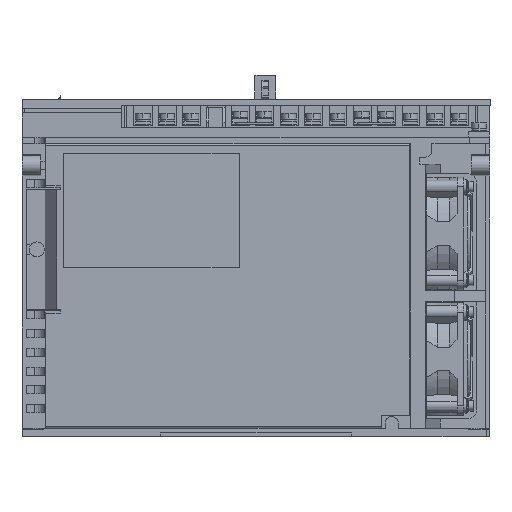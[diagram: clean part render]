
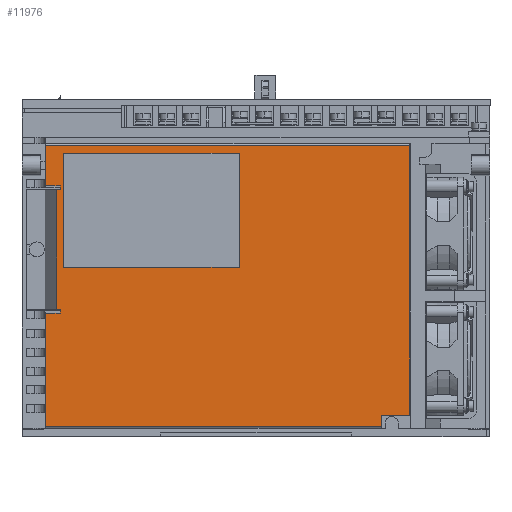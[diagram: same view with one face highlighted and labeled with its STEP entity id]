
A CAD part, left-side view. The second image highlights one B-rep face of the part: STEP entity #11976.
In plain terms, the highlighted planar face has unit normal (-1, 0, 0).
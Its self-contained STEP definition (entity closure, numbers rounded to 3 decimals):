
#11973 = VERTEX_POINT ( 'NONE', #36844 ) ;
#11976 = ADVANCED_FACE ( 'NONE', ( #36897, #36896 ), #36895, .F. ) ;
#11978 = EDGE_LOOP ( 'NONE', ( #11980, #11986, #11991, #11998, #12037, #12043, #12049, #12055, #12060, #12108, #12118, #12022, #12028, #12034 ) ) ;
#11980 = ORIENTED_EDGE ( 'NONE', *, *, #11981, .T. ) ;
#11981 = EDGE_CURVE ( 'NONE', #11983, #11984, #36886, .T. ) ;
#11983 = VERTEX_POINT ( 'NONE', #36882 ) ;
#11984 = VERTEX_POINT ( 'NONE', #36881 ) ;
#11986 = ORIENTED_EDGE ( 'NONE', *, *, #11988, .F. ) ;
#11988 = EDGE_CURVE ( 'NONE', #11989, #11984, #36876, .T. ) ;
#11989 = VERTEX_POINT ( 'NONE', #36871 ) ;
#11991 = ORIENTED_EDGE ( 'NONE', *, *, #11993, .F. ) ;
#11993 = EDGE_CURVE ( 'NONE', #11995, #11989, #36872, .T. ) ;
#11995 = VERTEX_POINT ( 'NONE', #36923 ) ;
#11998 = ORIENTED_EDGE ( 'NONE', *, *, #12000, .F. ) ;
#12000 = EDGE_CURVE ( 'NONE', #12002, #11995, #36918, .T. ) ;
#12002 = VERTEX_POINT ( 'NONE', #36913 ) ;
#12018 = EDGE_CURVE ( 'NONE', #12019, #12114, #36957, .T. ) ;
#12019 = VERTEX_POINT ( 'NONE', #36953 ) ;
#12022 = ORIENTED_EDGE ( 'NONE', *, *, #12024, .F. ) ;
#12024 = EDGE_CURVE ( 'NONE', #12025, #12019, #36947, .T. ) ;
#12025 = VERTEX_POINT ( 'NONE', #36942 ) ;
#12028 = ORIENTED_EDGE ( 'NONE', *, *, #12030, .F. ) ;
#12030 = EDGE_CURVE ( 'NONE', #12031, #12025, #36936, .T. ) ;
#12031 = VERTEX_POINT ( 'NONE', #36997 ) ;
#12034 = ORIENTED_EDGE ( 'NONE', *, *, #12036, .T. ) ;
#12036 = EDGE_CURVE ( 'NONE', #12031, #11983, #36992, .T. ) ;
#12037 = ORIENTED_EDGE ( 'NONE', *, *, #12039, .T. ) ;
#12039 = EDGE_CURVE ( 'NONE', #12002, #12041, #36984, .T. ) ;
#12041 = VERTEX_POINT ( 'NONE', #36979 ) ;
#12043 = ORIENTED_EDGE ( 'NONE', *, *, #12045, .F. ) ;
#12045 = EDGE_CURVE ( 'NONE', #12046, #12041, #36973, .T. ) ;
#12046 = VERTEX_POINT ( 'NONE', #36969 ) ;
#12049 = ORIENTED_EDGE ( 'NONE', *, *, #12051, .F. ) ;
#12051 = EDGE_CURVE ( 'NONE', #12052, #12046, #37032, .T. ) ;
#12052 = VERTEX_POINT ( 'NONE', #37024 ) ;
#12055 = ORIENTED_EDGE ( 'NONE', *, *, #12057, .T. ) ;
#12057 = EDGE_CURVE ( 'NONE', #12052, #12058, #37017, .T. ) ;
#12058 = VERTEX_POINT ( 'NONE', #37013 ) ;
#12060 = ORIENTED_EDGE ( 'NONE', *, *, #12062, .F. ) ;
#12062 = EDGE_CURVE ( 'NONE', #11973, #12058, #37012, .T. ) ;
#12068 = EDGE_LOOP ( 'NONE', ( #12070, #12079, #12086, #12094 ) ) ;
#12070 = ORIENTED_EDGE ( 'NONE', *, *, #12072, .F. ) ;
#12072 = EDGE_CURVE ( 'NONE', #12073, #12076, #37070, .T. ) ;
#12073 = VERTEX_POINT ( 'NONE', #37066 ) ;
#12076 = VERTEX_POINT ( 'NONE', #37060 ) ;
#12079 = ORIENTED_EDGE ( 'NONE', *, *, #12081, .F. ) ;
#12081 = EDGE_CURVE ( 'NONE', #12085, #12073, #37054, .T. ) ;
#12085 = VERTEX_POINT ( 'NONE', #37045 ) ;
#12086 = ORIENTED_EDGE ( 'NONE', *, *, #12089, .F. ) ;
#12089 = EDGE_CURVE ( 'NONE', #12092, #12085, #37038, .T. ) ;
#12092 = VERTEX_POINT ( 'NONE', #37107 ) ;
#12094 = ORIENTED_EDGE ( 'NONE', *, *, #12096, .F. ) ;
#12096 = EDGE_CURVE ( 'NONE', #12076, #12092, #37105, .T. ) ;
#12108 = ORIENTED_EDGE ( 'NONE', *, *, #12110, .F. ) ;
#12110 = EDGE_CURVE ( 'NONE', #12114, #11973, #37137, .T. ) ;
#12114 = VERTEX_POINT ( 'NONE', #37129 ) ;
#12118 = ORIENTED_EDGE ( 'NONE', *, *, #12018, .F. ) ;
#36844 = CARTESIAN_POINT ( 'NONE',  ( -4., -185.95, 11.5 ) ) ;
#36871 = CARTESIAN_POINT ( 'NONE',  ( -4., -12.445, 132. ) ) ;
#36872 = LINE ( 'NONE', #36932, #36931 ) ;
#36873 = DIRECTION ( 'NONE',  ( 0., -1., 0. ) ) ;
#36874 = VECTOR ( 'NONE', #36873, 1000. ) ;
#36875 = CARTESIAN_POINT ( 'NONE',  ( -4., -12.445, 132. ) ) ;
#36876 = LINE ( 'NONE', #36875, #36874 ) ;
#36881 = CARTESIAN_POINT ( 'NONE',  ( -4., -14.45, 132. ) ) ;
#36882 = CARTESIAN_POINT ( 'NONE',  ( -4., -14.45, 134. ) ) ;
#36883 = DIRECTION ( 'NONE',  ( 0., 0., -1. ) ) ;
#36884 = VECTOR ( 'NONE', #36883, 1000. ) ;
#36885 = CARTESIAN_POINT ( 'NONE',  ( -4., -14.45, 5.5 ) ) ;
#36886 = LINE ( 'NONE', #36885, #36884 ) ;
#36891 = DIRECTION ( 'NONE',  ( 0., 0., -1. ) ) ;
#36892 = DIRECTION ( 'NONE',  ( 1., 0., 0. ) ) ;
#36893 = CARTESIAN_POINT ( 'NONE',  ( -4., 158.329, 5.5 ) ) ;
#36894 = AXIS2_PLACEMENT_3D ( 'NONE', #36893, #36892, #36891 ) ;
#36895 = PLANE ( 'NONE',  #36894 ) ;
#36896 = FACE_BOUND ( 'NONE', #12068, .T. ) ;
#36897 = FACE_OUTER_BOUND ( 'NONE', #11978, .T. ) ;
#36913 = CARTESIAN_POINT ( 'NONE',  ( -4., -14.45, 68. ) ) ;
#36915 = DIRECTION ( 'NONE',  ( 0., 1., 0. ) ) ;
#36916 = VECTOR ( 'NONE', #36915, 1000. ) ;
#36917 = CARTESIAN_POINT ( 'NONE',  ( -4., -12.445, 68. ) ) ;
#36918 = LINE ( 'NONE', #36917, #36916 ) ;
#36923 = CARTESIAN_POINT ( 'NONE',  ( -4., -12.445, 68. ) ) ;
#36930 = DIRECTION ( 'NONE',  ( 0., 0., 1. ) ) ;
#36931 = VECTOR ( 'NONE', #36930, 1000. ) ;
#36932 = CARTESIAN_POINT ( 'NONE',  ( -4., -12.445, 28.846 ) ) ;
#36933 = DIRECTION ( 'NONE',  ( 0., 0., 1. ) ) ;
#36934 = VECTOR ( 'NONE', #36933, 1000. ) ;
#36935 = CARTESIAN_POINT ( 'NONE',  ( -4., -6.45, 134. ) ) ;
#36936 = LINE ( 'NONE', #36935, #36934 ) ;
#36942 = CARTESIAN_POINT ( 'NONE',  ( -4., -6.45, 155.5 ) ) ;
#36943 = DIRECTION ( 'NONE',  ( 0., -1., 0. ) ) ;
#36944 = VECTOR ( 'NONE', #36943, 1000. ) ;
#36946 = CARTESIAN_POINT ( 'NONE',  ( -4., 158.329, 155.5 ) ) ;
#36947 = LINE ( 'NONE', #36946, #36944 ) ;
#36953 = CARTESIAN_POINT ( 'NONE',  ( -4., -201.02, 155.5 ) ) ;
#36954 = DIRECTION ( 'NONE',  ( 0., 0., -1. ) ) ;
#36955 = VECTOR ( 'NONE', #36954, 1000. ) ;
#36956 = CARTESIAN_POINT ( 'NONE',  ( -4., -201.02, 155.5 ) ) ;
#36957 = LINE ( 'NONE', #36956, #36955 ) ;
#36969 = CARTESIAN_POINT ( 'NONE',  ( -4., -6.45, 66. ) ) ;
#36970 = DIRECTION ( 'NONE',  ( 0., -1., 0. ) ) ;
#36971 = VECTOR ( 'NONE', #36970, 1000. ) ;
#36972 = CARTESIAN_POINT ( 'NONE',  ( -4., -6.45, 66. ) ) ;
#36973 = LINE ( 'NONE', #36972, #36971 ) ;
#36979 = CARTESIAN_POINT ( 'NONE',  ( -4., -14.45, 66. ) ) ;
#36981 = DIRECTION ( 'NONE',  ( 0., 0., -1. ) ) ;
#36982 = VECTOR ( 'NONE', #36981, 1000. ) ;
#36983 = CARTESIAN_POINT ( 'NONE',  ( -4., -14.45, 5.5 ) ) ;
#36984 = LINE ( 'NONE', #36983, #36982 ) ;
#36989 = DIRECTION ( 'NONE',  ( 0., -1., 0. ) ) ;
#36990 = VECTOR ( 'NONE', #36989, 1000. ) ;
#36991 = CARTESIAN_POINT ( 'NONE',  ( -4., -6.45, 134. ) ) ;
#36992 = LINE ( 'NONE', #36991, #36990 ) ;
#36997 = CARTESIAN_POINT ( 'NONE',  ( -4., -6.45, 134. ) ) ;
#37009 = DIRECTION ( 'NONE',  ( 0., 0., -1. ) ) ;
#37010 = VECTOR ( 'NONE', #37009, 1000. ) ;
#37011 = CARTESIAN_POINT ( 'NONE',  ( -4., -185.95, 5.5 ) ) ;
#37012 = LINE ( 'NONE', #37011, #37010 ) ;
#37013 = CARTESIAN_POINT ( 'NONE',  ( -4., -185.95, 5.5 ) ) ;
#37014 = DIRECTION ( 'NONE',  ( 0., -1., 0. ) ) ;
#37015 = VECTOR ( 'NONE', #37014, 1000. ) ;
#37016 = CARTESIAN_POINT ( 'NONE',  ( -4., 158.329, 5.5 ) ) ;
#37017 = LINE ( 'NONE', #37016, #37015 ) ;
#37024 = CARTESIAN_POINT ( 'NONE',  ( -4., -6.45, 5.5 ) ) ;
#37025 = DIRECTION ( 'NONE',  ( 0., 0., 1. ) ) ;
#37026 = VECTOR ( 'NONE', #37025, 1000. ) ;
#37027 = CARTESIAN_POINT ( 'NONE',  ( -4., -6.45, 5.5 ) ) ;
#37032 = LINE ( 'NONE', #37027, #37026 ) ;
#37035 = DIRECTION ( 'NONE',  ( 0., 1., 0. ) ) ;
#37036 = VECTOR ( 'NONE', #37035, 1000. ) ;
#37037 = CARTESIAN_POINT ( 'NONE',  ( -4., -16., 151.5 ) ) ;
#37038 = LINE ( 'NONE', #37037, #37036 ) ;
#37045 = CARTESIAN_POINT ( 'NONE',  ( -4., -16., 151.5 ) ) ;
#37051 = DIRECTION ( 'NONE',  ( 0., 0., -1. ) ) ;
#37052 = VECTOR ( 'NONE', #37051, 1000. ) ;
#37053 = CARTESIAN_POINT ( 'NONE',  ( -4., -16., 90.5 ) ) ;
#37054 = LINE ( 'NONE', #37053, #37052 ) ;
#37060 = CARTESIAN_POINT ( 'NONE',  ( -4., -110., 90.5 ) ) ;
#37066 = CARTESIAN_POINT ( 'NONE',  ( -4., -16., 90.5 ) ) ;
#37067 = DIRECTION ( 'NONE',  ( 0., -1., 0. ) ) ;
#37068 = VECTOR ( 'NONE', #37067, 1000. ) ;
#37069 = CARTESIAN_POINT ( 'NONE',  ( -4., -16., 90.5 ) ) ;
#37070 = LINE ( 'NONE', #37069, #37068 ) ;
#37101 = DIRECTION ( 'NONE',  ( 0., 0., 1. ) ) ;
#37103 = VECTOR ( 'NONE', #37101, 1000. ) ;
#37104 = CARTESIAN_POINT ( 'NONE',  ( -4., -110., 90.5 ) ) ;
#37105 = LINE ( 'NONE', #37104, #37103 ) ;
#37107 = CARTESIAN_POINT ( 'NONE',  ( -4., -110., 151.5 ) ) ;
#37129 = CARTESIAN_POINT ( 'NONE',  ( -4., -201.02, 11.5 ) ) ;
#37134 = DIRECTION ( 'NONE',  ( 0., 1., 0. ) ) ;
#37135 = VECTOR ( 'NONE', #37134, 1000. ) ;
#37136 = CARTESIAN_POINT ( 'NONE',  ( -4., -346.523, 11.5 ) ) ;
#37137 = LINE ( 'NONE', #37136, #37135 ) ;
